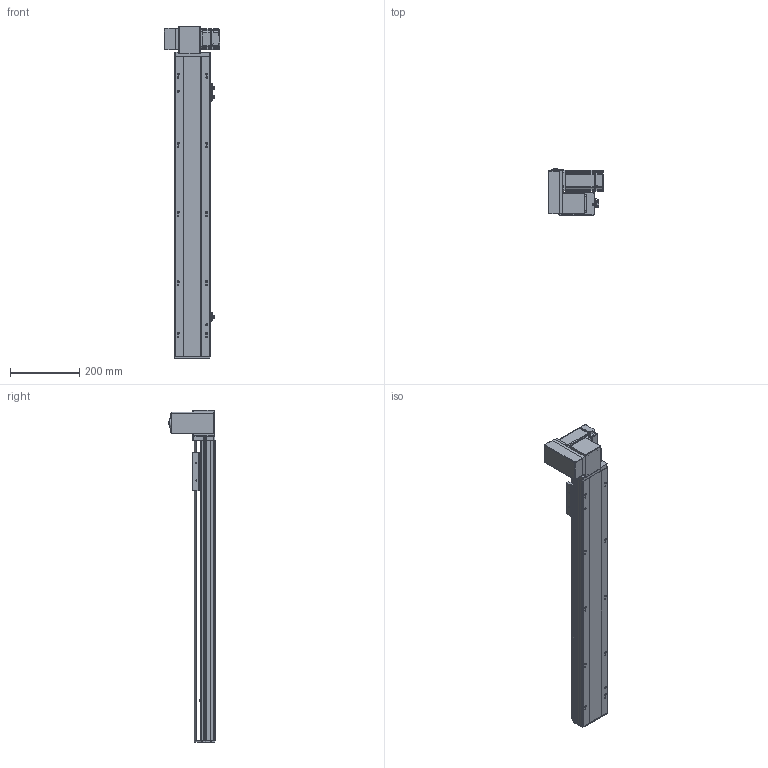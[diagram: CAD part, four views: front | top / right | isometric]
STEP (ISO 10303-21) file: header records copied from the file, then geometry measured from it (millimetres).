
FILE_DESCRIPTION (( 'STEP AP214' ), '1' );
FILE_NAME ('TPT10-L32-650-LU-T10-C4.STEP', '2023-03-02T11:32:46', ( '' ), ( '' ), 'SwSTEP 2.0', 'SolidWorks 2020', '' );
FILE_SCHEMA (( 'AUTOMOTIVE_DESIGN' ));
Length unit declared in the file: millimetre
Products named in the file (12): 葩璃 TPT10-L-009 萇儂啣^TPT10-L32-LU-T10-C4_100W; 葩璃 TPT10-L-001 菁釱MZ-102A-01^TPT10-L32-LU-T10-C4; hexagon head bolts-full thread gb_GB_FASTENER_BOLT_STBAB A M5X16-N; 葩璃 侂狟100W^TPT10-L32-LU-T10-C4; 葩璃 侂狟400W^TPT10-L32-LU-T10-C4; hexagon socket head cap screws gb_GB_FASTENER_SCREWS_HSHCS M3X6-N; 葩璃 TPT10-L-007 々湍釱MZ-169x88^TPT10-L32-LU-T10-C4_L; TPT10-L32-650-LU-T10-C4; hex nuts, style 1-grades ab gb_GB_FASTENER_NUT_SNAB1 M3-N; 葩璃 pm-t65-672^TPT10-L32-LU-T10-C4; 葩璃 TPT10-L-005 賑釱MZ-102A-03^TPT10-L32-LU-T10-C4; 葩璃 TPT10-L-002 奻裔MZ-102A-02^TPT10-L32-LU-T10-C4
Assembly tree (23 placements, depth 2):
  TPT10-L32-650-LU-T10-C4
    葩璃 TPT10-L-001 菁釱MZ-102A-01^TPT10-L32-LU-T10-C4
    葩璃 TPT10-L-002 奻裔MZ-102A-02^TPT10-L32-LU-T10-C4
    葩璃 TPT10-L-007 々湍釱MZ-169x88^TPT10-L32-LU-T10-C4_L
    葩璃 TPT10-L-005 賑釱MZ-102A-03^TPT10-L32-LU-T10-C4
    葩璃 TPT10-L-009 萇儂啣^TPT10-L32-LU-T10-C4_100W
    葩璃 pm-t65-672^TPT10-L32-LU-T10-C4  x3
    葩璃 侂狟100W^TPT10-L32-LU-T10-C4
    葩璃 侂狟400W^TPT10-L32-LU-T10-C4
    hexagon head bolts-full thread gb_GB_FASTENER_BOLT_STBAB A M5X16-N
    hexagon socket head cap screws gb_GB_FASTENER_SCREWS_HSHCS M3X6-N  x6
    hex nuts, style 1-grades ab gb_GB_FASTENER_NUT_SNAB1 M3-N  x6
Bounding box: 160.5 x 134.65 x 960 mm (x, y, z)
Volume: 3494351.6 mm3; surface area: 712091.4 mm2
Topology: 31 solids, 31 shells, 1895 faces, 4957 edges, 3171 vertices
Faces by surface type: plane 1044, cylinder 611, cone 194, bspline 34, torus 12
Entity records: 47715 total; most frequent: CARTESIAN_POINT 9364, DIRECTION 7808, ORIENTED_EDGE 7538, EDGE_CURVE 3769, AXIS2_PLACEMENT_3D 2740, VERTEX_POINT 2462, LINE 2328, VECTOR 2328
